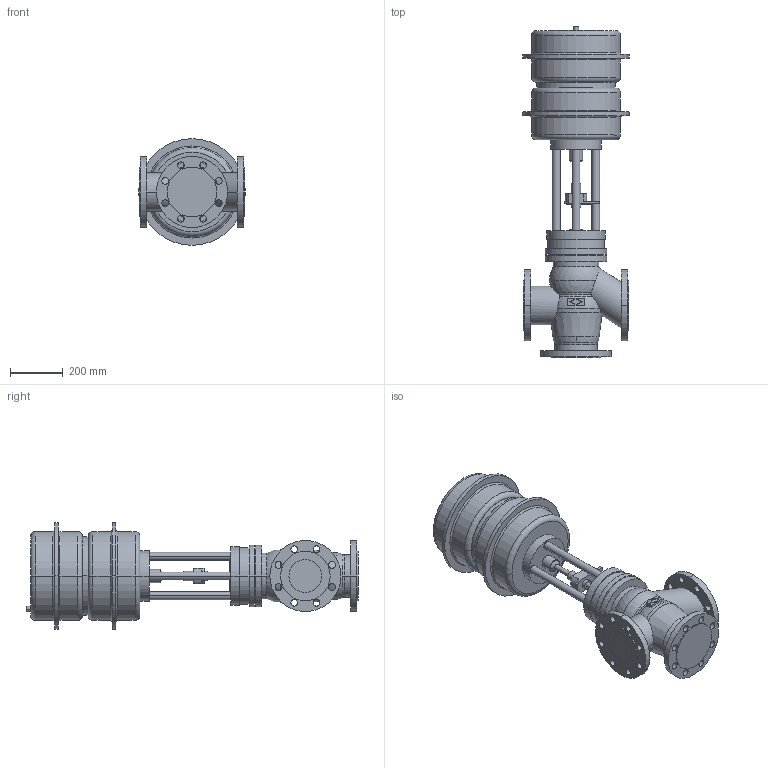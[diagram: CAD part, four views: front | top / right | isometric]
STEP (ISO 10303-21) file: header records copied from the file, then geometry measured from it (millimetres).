
FILE_DESCRIPTION(('OneSpaceDesigner STEP Export'),'2;1');
FILE_NAME('c000002371.stp','2006-12-14T11:55:04',(''),(''),'OneSpace Designer STEP processor for AP214 (Solid Model)','OneSpace Designer 14.00B 27-May-2006 (C) CoCreate Software GmbH','');
FILE_SCHEMA(('AUTOMOTIVE_DESIGN { 1 0 10303 214 1 1 1 1 }'));
Length unit declared in the file: millimetre
Products named in the file (2): 1; 2
Bounding box: 405 x 1261.5 x 405 mm (x, y, z)
Volume: 61034415.5 mm3; surface area: 1785621.5 mm2
Topology: 2 solids, 2 shells, 241 faces, 598 edges, 388 vertices
Faces by surface type: cylinder 128, plane 75, torus 26, sphere 8, cone 4
Entity records: 6468 total; most frequent: CARTESIAN_POINT 1296, ORIENTED_EDGE 1180, DIRECTION 920, EDGE_CURVE 590, VERTEX_POINT 388, AXIS2_PLACEMENT_3D 349, EDGE_LOOP 324, FACE_OUTER_BOUND 241
